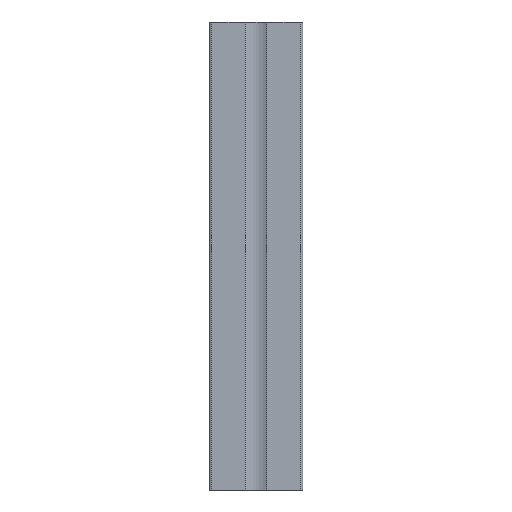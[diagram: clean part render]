
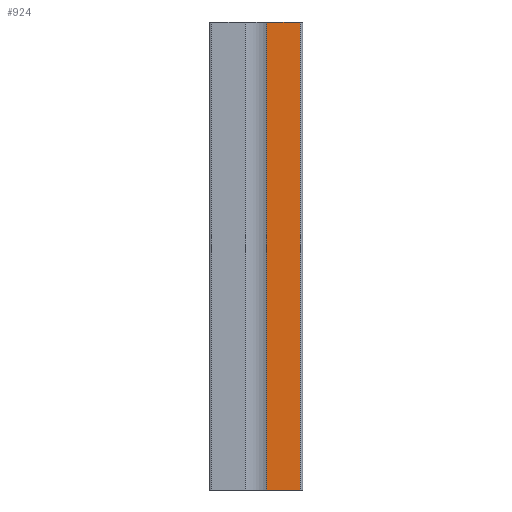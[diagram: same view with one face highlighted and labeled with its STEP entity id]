
A CAD part, front view. The second image highlights one B-rep face of the part: STEP entity #924.
In plain terms, the highlighted planar face has unit normal (0, -1, 0).
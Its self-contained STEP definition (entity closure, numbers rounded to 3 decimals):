
#64=LINE('',#1416,#168);
#65=LINE('',#1419,#169);
#66=LINE('',#1421,#170);
#67=LINE('',#1422,#171);
#168=VECTOR('',#1157,10.);
#169=VECTOR('',#1160,10.);
#170=VECTOR('',#1161,10.);
#171=VECTOR('',#1162,10.);
#238=PLANE('',#991);
#296=FACE_OUTER_BOUND('',#348,.T.);
#348=EDGE_LOOP('',(#713,#714,#715,#716));
#455=VERTEX_POINT('',#1412);
#456=VERTEX_POINT('',#1414);
#457=VERTEX_POINT('',#1418);
#458=VERTEX_POINT('',#1420);
#564=EDGE_CURVE('',#455,#456,#64,.T.);
#565=EDGE_CURVE('',#455,#457,#65,.T.);
#566=EDGE_CURVE('',#458,#456,#66,.T.);
#567=EDGE_CURVE('',#457,#458,#67,.T.);
#713=ORIENTED_EDGE('',*,*,#565,.F.);
#714=ORIENTED_EDGE('',*,*,#564,.T.);
#715=ORIENTED_EDGE('',*,*,#566,.F.);
#716=ORIENTED_EDGE('',*,*,#567,.F.);
#924=ADVANCED_FACE('',(#296),#238,.T.);
#991=AXIS2_PLACEMENT_3D('',#1417,#1158,#1159);
#1157=DIRECTION('',(0.,0.,1.));
#1158=DIRECTION('center_axis',(0.,-1.,0.));
#1159=DIRECTION('ref_axis',(1.,0.,0.));
#1160=DIRECTION('',(-1.,0.,0.));
#1161=DIRECTION('',(1.,0.,0.));
#1162=DIRECTION('',(0.,0.,1.));
#1412=CARTESIAN_POINT('',(25.292,6.678,0.));
#1414=CARTESIAN_POINT('',(25.292,6.678,100.));
#1416=CARTESIAN_POINT('',(25.292,6.678,0.));
#1417=CARTESIAN_POINT('Origin',(18.042,6.678,0.));
#1418=CARTESIAN_POINT('',(18.042,6.678,0.));
#1419=CARTESIAN_POINT('',(25.292,6.678,0.));
#1420=CARTESIAN_POINT('',(18.042,6.678,100.));
#1421=CARTESIAN_POINT('',(25.292,6.678,100.));
#1422=CARTESIAN_POINT('',(18.042,6.678,0.));
